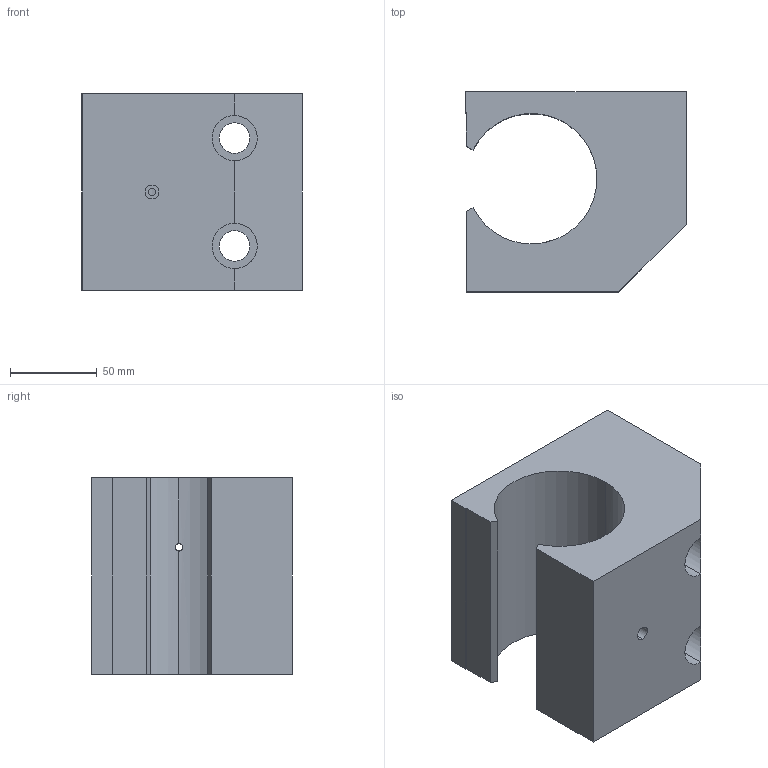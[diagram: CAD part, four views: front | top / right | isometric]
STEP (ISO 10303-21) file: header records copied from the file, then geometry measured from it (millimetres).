
FILE_DESCRIPTION (( 'STEP AP214' ), '1' );
FILE_NAME ('KGS71-50.step', '2020-03-04T13:23:55', ( '' ), ( '' ), 'SwSTEP 2.0', 'SolidWorks 2019', '' );
FILE_SCHEMA (( 'AUTOMOTIVE_DESIGN' ));
Length unit declared in the file: millimetre
Products named in the file (1): KGS71-50
Bounding box: 127 x 115 x 113 mm (x, y, z)
Volume: 977648.2 mm3; surface area: 104427.9 mm2
Topology: 1 solids, 1 shells, 35 faces, 93 edges, 60 vertices
Faces by surface type: cylinder 18, plane 15, cone 2
Entity records: 1337 total; most frequent: CARTESIAN_POINT 315, DIRECTION 189, ORIENTED_EDGE 186, EDGE_CURVE 93, AXIS2_PLACEMENT_3D 68, VERTEX_POINT 60, VECTOR 53, LINE 53
